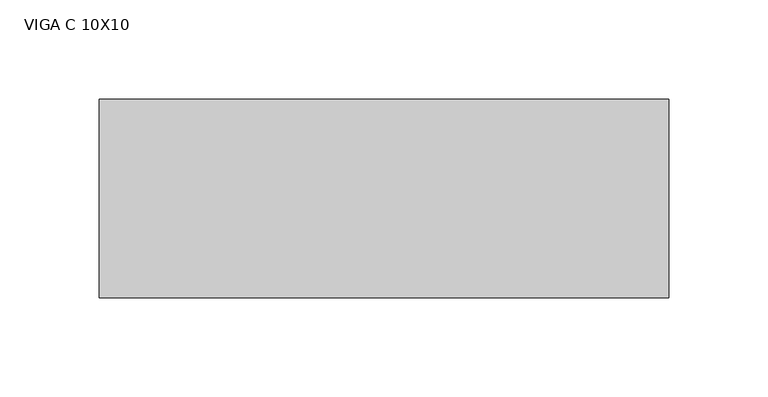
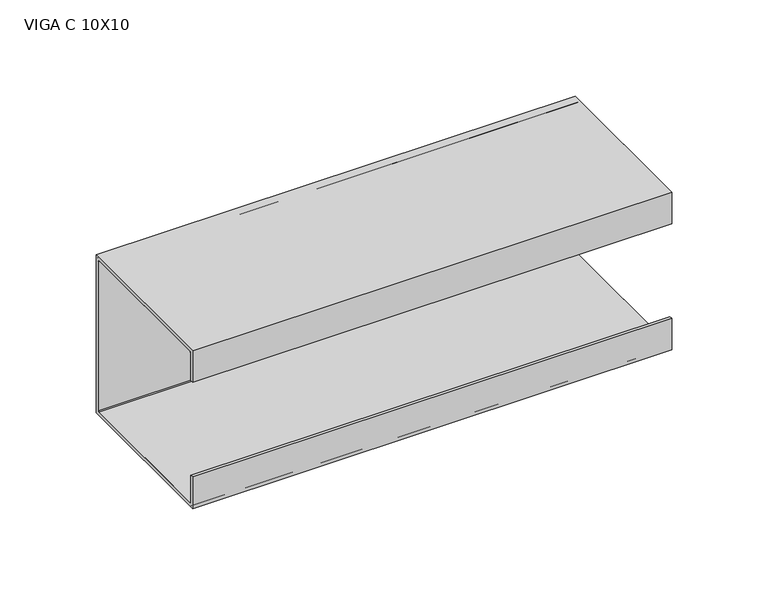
"""IFC4 building model written with IfcOpenShell, lengths in millimetres: beam geometry, VIGA PERFIL C AÇO : VIGA C 10X10."""

from ifc_helpers import new_model, si_unit, point, frame, frame_2d, origin, place, context, project, spatial, polyline, circle_curve, trimmed, segment, composite_curve, outline, extrude, source, transform, mapped, element, save


def viga_c_10x10_cf1afbd9(model_context):
    return source(origin(), model_context, "Body", "SweptSolid", [
        extrude(outline(polyline([(9.2, -50.0), (-90.8, -50.0), (-90.8, -30.0), (-88.9, -30.0), (-88.9, -48.1), (7.3, -48.1), (7.3, 48.1), (-88.9, 48.1), (-88.9, 30.0), (-90.8, 30.0), (-90.8, 50.0), (9.2, 50.0), (9.2, -50.0)])), frame((-151.0, 0.0, 0.0), z_axis=(1.0, 0.0, 0.0), x_axis=(0.0, 1.0, 0.0)), (0.0, 0.0, 1.0), 287.0),
        extrude(outline(composite_curve([segment(trimmed(circle_curve(frame_2d((5.4, -46.2)), 3.8), [point((9.2, -46.2))], [point((5.4, -50.0))], False, "CARTESIAN"), True, "CONTINUOUS"), segment(polyline([(5.4, -50.0), (-87.0, -50.0)]), True, "CONTINUOUS"), segment(trimmed(circle_curve(frame_2d((-87.0, -46.2)), 3.8), [point((-87.0, -50.0))], [point((-90.8, -46.2))], False, "CARTESIAN"), True, "CONTINUOUS"), segment(polyline([(-90.8, -46.2), (-90.8, -30.0), (-88.9, -30.0), (-88.9, -46.2)]), True, "CONTINUOUS"), segment(trimmed(circle_curve(frame_2d((-87.0, -46.2)), 1.9), [point((-88.9, -46.2))], [point((-87.0, -48.1))], True, "CARTESIAN"), True, "CONTINUOUS"), segment(polyline([(-87.0, -48.1), (5.4, -48.1)]), True, "CONTINUOUS"), segment(trimmed(circle_curve(frame_2d((5.4, -46.2)), 1.9), [point((5.4, -48.1))], [point((7.3, -46.2))], True, "CARTESIAN"), True, "CONTINUOUS"), segment(polyline([(7.3, -46.2), (7.3, 46.2)]), True, "CONTINUOUS"), segment(trimmed(circle_curve(frame_2d((5.4, 46.2)), 1.9), [point((7.3, 46.2))], [point((5.4, 48.1))], True, "CARTESIAN"), True, "CONTINUOUS"), segment(polyline([(5.4, 48.1), (-87.0, 48.1)]), True, "CONTINUOUS"), segment(trimmed(circle_curve(frame_2d((-87.0, 46.2)), 1.9), [point((-87.0, 48.1))], [point((-88.9, 46.2))], True, "CARTESIAN"), True, "CONTINUOUS"), segment(polyline([(-88.9, 46.2), (-88.9, 30.0), (-90.8, 30.0), (-90.8, 46.2)]), True, "CONTINUOUS"), segment(trimmed(circle_curve(frame_2d((-87.0, 46.2)), 3.8), [point((-90.8, 46.2))], [point((-87.0, 50.0))], False, "CARTESIAN"), True, "CONTINUOUS"), segment(polyline([(-87.0, 50.0), (5.4, 50.0)]), True, "CONTINUOUS"), segment(trimmed(circle_curve(frame_2d((5.4, 46.2)), 3.8), [point((5.4, 50.0))], [point((9.2, 46.2))], False, "CARTESIAN"), True, "CONTINUOUS"), segment(polyline([(9.2, 46.2), (9.2, -46.2)]), True, "CONTINUOUS")], self_intersect=False)), frame((-151.0, 0.0, 0.0), z_axis=(1.0, 0.0, 0.0), x_axis=(0.0, 1.0, 0.0)), (0.0, 0.0, 1.0), 287.0),
    ])


if __name__ == "__main__":
    model = new_model("IFC4")
    model_context = context("Model", 3, world=origin())
    ifc_project = project(units=[si_unit("LENGTHUNIT", "METRE", prefix="MILLI")], contexts=[model_context])
    site = spatial("IfcSite", under=ifc_project)
    building = spatial("IfcBuilding", under=site)
    placement = place(None, origin())
    viga_c_10x10_shape = viga_c_10x10_cf1afbd9(model_context)
    element("IfcBeam", 1, ObjectType="VIGA PERFIL C AÇO : VIGA C 10X10", at=placement, inside=building, context=model_context, shape_type="MappedRepresentation", body=[
        mapped(viga_c_10x10_shape, transform((0.0, 0.0, 0.0), x_axis=(1.0, 0.0, 0.0), y_axis=(0.0, 1.0, 0.0), z_axis=(0.0, 0.0, 1.0))),
    ])
    save(model, "model.ifc")
